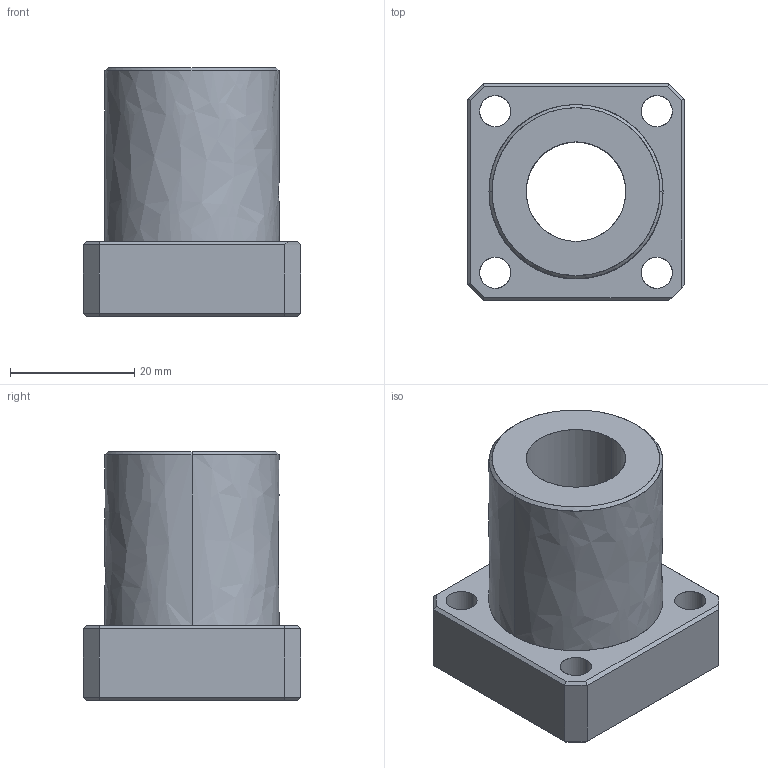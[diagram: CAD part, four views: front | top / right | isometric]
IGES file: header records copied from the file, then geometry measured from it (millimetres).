
Global section: file name: No Iges File Name specified; native system: AutoDesk Inventor R10; preprocessor: AutoDesk Inventor Iges Exporter R10; author: No Author specified; organization: No Organization specified; date: 20101214.155024; units: millimetre
Bounding box: 35 x 35 x 40 mm (x, y, z)
Surface area: 8612.3 mm2 (no closed solid volume)
Topology: 0 solids, 0 shells, 62 faces, 432 edges, 432 vertices
Faces by surface type: bspline 62
